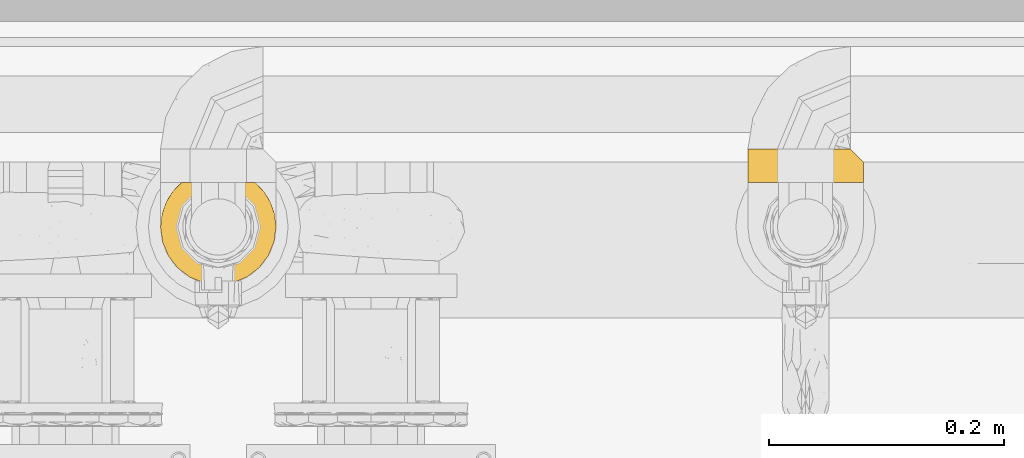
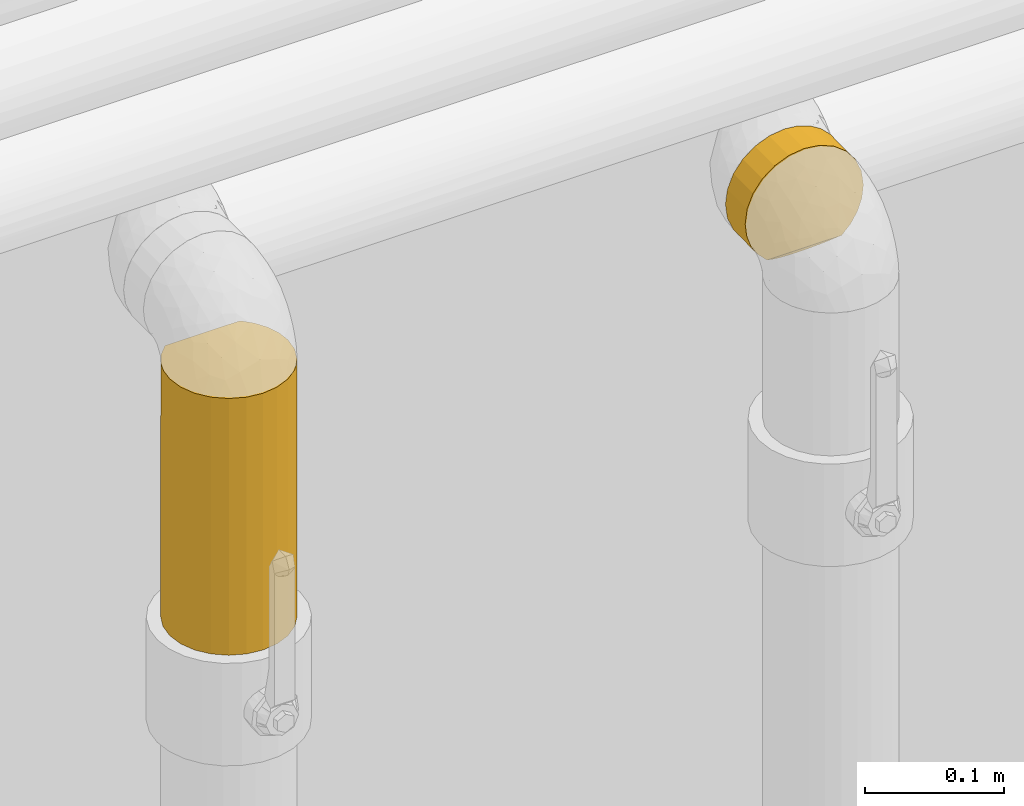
# One storey, part 21 of 94: 2 coverings.
"""IFC2X3 building model written with IfcOpenShell, lengths in millimetres."""

import ifcopenshell
import ifcopenshell.guid

model = None  # the IFC model being written
_history = None  # IfcOwnerHistory: only IFC2X3 demands one
_inside = {}  # id of a spatial element -> (the spatial element, [elements in it])
_under = {}  # id of a project, library or spatial element -> (it, [spatial elements below it])
_declared = {}  # id of a project -> (the project, [libraries it declares])
_typed = {}  # id of a type object -> (the type object, [elements of that type])
_made_of = {}  # id of a material, layer set ... -> (it, [elements and type objects made of it])


def new_model(schema):
    """Start an empty IFC model of exactly this schema.

    Asked for "IFC4X3", IfcOpenShell would pick the latest addendum, in which some entities
    have other attributes; the version numbers below select the first issue.
    IFC2X3 requires an IfcOwnerHistory on every rooted entity: one is made here for all.
    """
    global model, _history
    if schema == "IFC4X3":
        model = ifcopenshell.file(schema_version=(4, 3, 0, 0))
    else:
        model = ifcopenshell.file(schema=schema)
    _inside.clear()
    _under.clear()
    _declared.clear()
    _typed.clear()
    _made_of.clear()
    _history = None
    if model.schema == "IFC2X3":
        org = make("IfcOrganization", Name="unknown")
        user = make(
            "IfcPersonAndOrganization",
            ThePerson=make("IfcPerson", FamilyName="unknown"),
            TheOrganization=org,
        )
        app = make(
            "IfcApplication",
            ApplicationDeveloper=org,
            Version="unknown",
            ApplicationFullName="unknown",
            ApplicationIdentifier="unknown",
        )
        _history = make(
            "IfcOwnerHistory",
            OwningUser=user,
            OwningApplication=app,
            ChangeAction="ADDED",
            CreationDate=0,
        )
    return model


def make(cls, **values):
    """One entity of the class cls with the attributes given. An attribute that is None is left unset."""
    return model.create_entity(
        cls, **{name: value for name, value in values.items() if value is not None}
    )


def entity(cls, *values):
    """Any entity or typed value of the class cls, its attributes in the order of the schema. None: left unset."""
    e = model.create_entity(cls)
    for i, value in enumerate(values):
        if value is not None:
            e[i] = value
    return e


def rooted(cls, **values):
    """An entity with a GlobalId (a new one), such as an element, a storey or a relation."""
    return make(cls, GlobalId=ifcopenshell.guid.new(), OwnerHistory=_history, **values)


def si_unit(unit_type, name, prefix=None):
    """IfcSIUnit, for example si_unit("LENGTHUNIT", "METRE", prefix="MILLI")."""
    return make("IfcSIUnit", UnitType=unit_type, Prefix=prefix, Name=name)


def converted_unit(unit_type, name, factor, base, dimensions=None, offset=None):
    """IfcConversionBasedUnit, such as the inch: factor (a typed value) times the base unit."""
    return make(
        "IfcConversionBasedUnit"
        if offset is None
        else "IfcConversionBasedUnitWithOffset",
        ConversionOffset=offset,
        Dimensions=None
        if dimensions is None
        else entity("IfcDimensionalExponents", *dimensions),
        UnitType=unit_type,
        Name=name,
        ConversionFactor=make(
            "IfcMeasureWithUnit", ValueComponent=factor, UnitComponent=base
        ),
    )


def derived_unit(unit_type, elements):
    """IfcDerivedUnit: a product of units, each with its exponent."""
    return make(
        "IfcDerivedUnit",
        Elements=[
            make("IfcDerivedUnitElement", Unit=unit, Exponent=power)
            for unit, power in elements
        ],
        UnitType=unit_type,
    )


def assignment(units):
    """IfcUnitAssignment: the units of a project."""
    return None if units is None else make("IfcUnitAssignment", Units=units)


def point(xyz):
    """IfcCartesianPoint."""
    return None if xyz is None else make("IfcCartesianPoint", Coordinates=xyz)


def direction(xyz):
    """IfcDirection."""
    return None if xyz is None else make("IfcDirection", DirectionRatios=xyz)


def frame(location, z_axis=None, x_axis=None):
    """IfcAxis2Placement3D, a coordinate frame: its origin and axes. An axis left out is left unset."""
    return make(
        "IfcAxis2Placement3D",
        Location=point(location),
        Axis=direction(z_axis),
        RefDirection=direction(x_axis),
    )


def origin():
    """The frame at (0, 0, 0) with its axes left unset."""
    return frame((0.0, 0.0, 0.0))


def place(relative_to, where):
    """IfcLocalPlacement: puts the frame where relative to a parent placement (None: the world)."""
    return make(
        "IfcLocalPlacement", PlacementRelTo=relative_to, RelativePlacement=where
    )


def context(
    kind, dimensions, precision=None, world=None, true_north=None, identifier=None
):
    """IfcGeometricRepresentationContext, for example the 3D "Model" context."""
    return make(
        "IfcGeometricRepresentationContext",
        ContextIdentifier=identifier,
        ContextType=kind,
        CoordinateSpaceDimension=dimensions,
        Precision=precision,
        WorldCoordinateSystem=world,
        TrueNorth=true_north,
    )


def subcontext(parent, identifier, kind, view, scale=None):
    """IfcGeometricRepresentationSubContext, for example "Body" below "Model"."""
    return make(
        "IfcGeometricRepresentationSubContext",
        ContextIdentifier=identifier,
        ContextType=kind,
        ParentContext=parent,
        TargetScale=scale,
        TargetView=view,
    )


def project(units=None, contexts=None):
    """IfcProject with its units and contexts."""
    return rooted(
        "IfcProject",
        Name="project",
        RepresentationContexts=contexts,
        UnitsInContext=assignment(units),
    )


def spatial(cls, under=None, at=None, **own):
    """A site, building, storey or space (cls), placed at a placement, below another one or the project."""
    s = rooted(cls, ObjectPlacement=at, **own)
    if under is not None:
        _under.setdefault(under.id(), (under, []))[1].append(s)
    return s


def faces_of(points, faces, orient=None, outer=None):
    """IfcFace entities. A face is a list of loops; a loop is a list of indices into points, from 0.

    orient and outer hold one flag for each loop. By default every Orientation is true, the
    first loop of a face is its IfcFaceOuterBound and the others are IfcFaceBound.
    """
    made = []
    for i, loops in enumerate(faces):
        bounds = []
        for j, loop in enumerate(loops):
            is_outer = j == 0 if outer is None else outer[i][j]
            bounds.append(
                make(
                    "IfcFaceOuterBound" if is_outer else "IfcFaceBound",
                    Bound=make("IfcPolyLoop", Polygon=[points[k] for k in loop]),
                    Orientation=True if orient is None else orient[i][j],
                )
            )
        made.append(make("IfcFace", Bounds=bounds))
    return made


def faceted_brep(points, faces, orient=None, outer=None, voids=None):
    """IfcFacetedBrep: a solid bounded by flat faces; with voids (closed shells), ...WithVoids."""
    shared = [point(p) for p in points]
    hull = make("IfcClosedShell", CfsFaces=faces_of(shared, faces, orient, outer))
    if voids is None:
        return make("IfcFacetedBrep", Outer=hull)
    return make(
        "IfcFacetedBrepWithVoids",
        Outer=hull,
        Voids=[
            make(cls, CfsFaces=faces_of(shared, fs, o, b)) for cls, fs, o, b in voids
        ],
    )


def shape(context_of_items, identifier, shape_type, items):
    """IfcShapeRepresentation: the items that make up one representation, for example the "Body"."""
    return make(
        "IfcShapeRepresentation",
        ContextOfItems=context_of_items,
        RepresentationIdentifier=identifier,
        RepresentationType=shape_type,
        Items=items,
    )


def material(Name=None, Category=None):
    """IfcMaterial."""
    return make("IfcMaterial", Name=Name, Category=Category)


def made_of(thing, what):
    """Note that an element or type object is made of a material, layer set ...; save() writes the relation."""
    if what is not None:
        _made_of.setdefault(what.id(), (what, []))[1].append(thing)
    return thing


def element(
    cls,
    number,
    at=None,
    inside=None,
    cuts=None,
    type_object=None,
    material=None,
    context=None,
    identifier="Body",
    shape_type=None,
    held_by="IfcProductDefinitionShape",
    body=None,
    shapes=None,
    **own,
):
    """One element of the class cls, such as IfcWall. Its Tag is "e" and its number.

    at: its placement. inside: the storey or other place that contains it. cuts: it is an
    opening in that element (IfcRelVoidsElement). A single representation is given by context,
    identifier, shape_type and body (its items); several are given by shapes. held_by: the class
    of the entity that holds the representations. save() writes the other relations.
    """
    e = rooted(cls, Tag="e%d" % number, ObjectPlacement=at, **own)
    if body is not None:
        shapes = [shape(context, identifier, shape_type, body)]
    if shapes is not None:
        e.Representation = make(held_by, Representations=shapes)
    if inside is not None:
        _inside.setdefault(inside.id(), (inside, []))[1].append(e)
    if cuts is not None:
        rooted(
            "IfcRelVoidsElement", RelatingBuildingElement=cuts, RelatedOpeningElement=e
        )
    if type_object is not None:
        _typed.setdefault(type_object.id(), (type_object, []))[1].append(e)
    return made_of(e, material)


def aggregate(whole, parts):
    """IfcRelAggregates: a whole, such as a stair, and the parts it consists of."""
    return rooted("IfcRelAggregates", RelatingObject=whole, RelatedObjects=parts)


def save(model, path):
    """Write the relations noted so far, then the file.

    IfcRelAggregates (storeys below a building ...), IfcRelContainedInSpatialStructure (elements
    in a storey), IfcRelDefinesByType, IfcRelAssociatesMaterial and IfcRelDeclares: one each for
    every whole, place, type object, material and project.
    """
    for whole, parts in _under.values():
        aggregate(whole, parts)
    for where, things in _inside.values():
        rooted(
            "IfcRelContainedInSpatialStructure",
            RelatedElements=things,
            RelatingStructure=where,
        )
    for kind, things in _typed.values():
        rooted("IfcRelDefinesByType", RelatedObjects=things, RelatingType=kind)
    for what, things in _made_of.values():
        rooted("IfcRelAssociatesMaterial", RelatedObjects=things, RelatingMaterial=what)
    for by, libraries in _declared.values():
        rooted("IfcRelDeclares", RelatingContext=by, RelatedDefinitions=libraries)
    model.write(path)


model = new_model("IFC2X3")

# Units and contexts
model_context = context("Model", 3, precision=0.01, world=origin(), true_north=direction((6.123031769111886e-17, 1.0)))
body_context = subcontext(model_context, "Body", "Model", "MODEL_VIEW")
ifc_project = project(units=[si_unit("LENGTHUNIT", "METRE", prefix="MILLI"), si_unit("AREAUNIT", "SQUARE_METRE"), si_unit("VOLUMEUNIT", "CUBIC_METRE"), converted_unit("PLANEANGLEUNIT", "DEGREE", entity("IfcRatioMeasure", 0.017453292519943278), si_unit("PLANEANGLEUNIT", "RADIAN"), dimensions=[0, 0, 0, 0, 0, 0, 0]), si_unit("MASSUNIT", "GRAM", prefix="KILO"), derived_unit("MASSDENSITYUNIT", [(si_unit("MASSUNIT", "GRAM", prefix="KILO"), 1), (si_unit("LENGTHUNIT", "METRE"), -3)]), derived_unit("IONCONCENTRATIONUNIT", [(si_unit("MASSUNIT", "GRAM", prefix="KILO"), 1), (si_unit("LENGTHUNIT", "METRE"), -3)]), derived_unit("MOMENTOFINERTIAUNIT", [(si_unit("LENGTHUNIT", "METRE"), 4)]), si_unit("TIMEUNIT", "SECOND"), si_unit("FREQUENCYUNIT", "HERTZ"), si_unit("THERMODYNAMICTEMPERATUREUNIT", "DEGREE_CELSIUS"), derived_unit("THERMALTRANSMITTANCEUNIT", [(si_unit("MASSUNIT", "GRAM", prefix="KILO"), 1), (si_unit("THERMODYNAMICTEMPERATUREUNIT", "KELVIN"), -1), (si_unit("TIMEUNIT", "SECOND"), -3)]), derived_unit("THERMALCONDUCTANCEUNIT", [(si_unit("MASSUNIT", "GRAM", prefix="KILO"), 1), (si_unit("THERMODYNAMICTEMPERATUREUNIT", "KELVIN"), -1), (si_unit("TIMEUNIT", "SECOND"), -3), (si_unit("LENGTHUNIT", "METRE"), 1)]), derived_unit("VOLUMETRICFLOWRATEUNIT", [(si_unit("LENGTHUNIT", "METRE"), 3), (si_unit("TIMEUNIT", "SECOND"), -1)]), derived_unit("MASSFLOWRATEUNIT", [(si_unit("MASSUNIT", "GRAM", prefix="KILO"), 1), (si_unit("TIMEUNIT", "SECOND"), -1)]), derived_unit("ROTATIONALFREQUENCYUNIT", [(si_unit("TIMEUNIT", "SECOND"), -1)]), si_unit("ELECTRICCURRENTUNIT", "AMPERE"), si_unit("ELECTRICVOLTAGEUNIT", "VOLT"), si_unit("POWERUNIT", "WATT"), si_unit("FORCEUNIT", "NEWTON", prefix="KILO"), si_unit("ILLUMINANCEUNIT", "LUX"), si_unit("LUMINOUSFLUXUNIT", "LUMEN"), si_unit("LUMINOUSINTENSITYUNIT", "CANDELA"), derived_unit("USERDEFINED", [(si_unit("MASSUNIT", "GRAM", prefix="KILO"), -1), (si_unit("LENGTHUNIT", "METRE"), -2), (si_unit("TIMEUNIT", "SECOND"), 3), (si_unit("LUMINOUSFLUXUNIT", "LUMEN"), 1)]), derived_unit("USERDEFINED", [(si_unit("MASSUNIT", "GRAM", prefix="KILO"), 1), (si_unit("TIMEUNIT", "SECOND"), -3), (si_unit("LENGTHUNIT", "METRE"), 3), (si_unit("ELECTRICCURRENTUNIT", "AMPERE"), -2)]), derived_unit("SOUNDPOWERUNIT", [(si_unit("MASSUNIT", "GRAM", prefix="KILO"), 1), (si_unit("TIMEUNIT", "SECOND"), -3), (si_unit("LENGTHUNIT", "METRE"), 2)]), derived_unit("SOUNDPRESSUREUNIT", [(si_unit("MASSUNIT", "GRAM", prefix="KILO"), 1), (si_unit("LENGTHUNIT", "METRE"), -1), (si_unit("TIMEUNIT", "SECOND"), -2)]), derived_unit("LINEARVELOCITYUNIT", [(si_unit("LENGTHUNIT", "METRE"), 1), (si_unit("TIMEUNIT", "SECOND"), -1)]), si_unit("PRESSUREUNIT", "PASCAL"), derived_unit("USERDEFINED", [(si_unit("MASSUNIT", "GRAM", prefix="KILO"), 1), (si_unit("LENGTHUNIT", "METRE"), -2), (si_unit("TIMEUNIT", "SECOND"), -2)]), derived_unit("LINEARFORCEUNIT", [(si_unit("MASSUNIT", "GRAM", prefix="KILO"), 1), (si_unit("TIMEUNIT", "SECOND"), -2)]), derived_unit("PLANARFORCEUNIT", [(si_unit("MASSUNIT", "GRAM", prefix="KILO"), 1), (si_unit("LENGTHUNIT", "METRE"), -1), (si_unit("TIMEUNIT", "SECOND"), -2)]), derived_unit("SPECIFICHEATCAPACITYUNIT", [(si_unit("THERMODYNAMICTEMPERATUREUNIT", "KELVIN"), -1), (si_unit("LENGTHUNIT", "METRE"), 2), (si_unit("TIMEUNIT", "SECOND"), -2)]), derived_unit("HEATINGVALUEUNIT", [(si_unit("LENGTHUNIT", "METRE"), 2), (si_unit("TIMEUNIT", "SECOND"), -2)]), derived_unit("VAPORPERMEABILITYUNIT", [(si_unit("LENGTHUNIT", "METRE"), -1), (si_unit("TIMEUNIT", "SECOND"), 1)]), derived_unit("DYNAMICVISCOSITYUNIT", [(si_unit("MASSUNIT", "GRAM", prefix="KILO"), 1), (si_unit("TIMEUNIT", "SECOND"), -1), (si_unit("LENGTHUNIT", "METRE"), -1)]), derived_unit("THERMALEXPANSIONCOEFFICIENTUNIT", [(si_unit("THERMODYNAMICTEMPERATUREUNIT", "KELVIN"), -1)]), derived_unit("MODULUSOFELASTICITYUNIT", [(si_unit("MASSUNIT", "GRAM", prefix="KILO"), 1), (si_unit("LENGTHUNIT", "METRE"), -1), (si_unit("TIMEUNIT", "SECOND"), -2)]), derived_unit("ISOTHERMALMOISTURECAPACITYUNIT", [(si_unit("LENGTHUNIT", "METRE"), 3), (si_unit("MASSUNIT", "GRAM", prefix="KILO"), -1)]), derived_unit("MOISTUREDIFFUSIVITYUNIT", [(si_unit("TIMEUNIT", "SECOND"), -1), (si_unit("LENGTHUNIT", "METRE"), 2)])], contexts=[model_context])

# Site, building, storey
site_placement = place(None, origin())
site = spatial("IfcSite", under=ifc_project, at=site_placement, Name="Default", CompositionType="ELEMENT")
building_placement = place(site_placement, origin())
building = spatial("IfcBuilding", under=site, at=building_placement, CompositionType="ELEMENT")
storey_placement = place(building_placement, origin())
storey = spatial("IfcBuildingStorey", under=building, at=storey_placement, Name="Niveau 0", CompositionType="ELEMENT", Elevation=0.0)

# Coverings
ifc_material = material(Name="Isolation - Laine minérale")
covering_1_placement = place(storey_placement, frame((-8622.871137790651, 9871.745273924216, 2513.595272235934)))
element("IfcCovering", 1, at=covering_1_placement, inside=storey, material=ifc_material, Name="Isolation des canalisations:Laine minérale", ObjectType="Isolation des canalisations:Laine minérale", PredefinedType="INSULATION", context=body_context, shape_type="Brep", body=[
    faceted_brep([(93.2731003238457, 26.160272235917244, -1.5952722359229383), (98.18120808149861, 38.00949255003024, -1.5952722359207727), (99.85527223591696, 50.72527223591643, -1.595272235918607), (98.65694811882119, 61.51004608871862, -1.5952722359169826), (95.12737949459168, 71.75405657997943, -1.5952722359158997), (89.43799982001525, 80.975588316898, -1.5952722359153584), (81.86619226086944, 88.72527223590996, -1.5952722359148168), (19.584352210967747, 88.72527223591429, -1.5952722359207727), (12.012544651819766, 80.97558831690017, -1.595272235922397), (6.323164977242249, 71.75405657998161, -1.5952722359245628), (2.793596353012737, 61.51004608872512, -1.595272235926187), (1.5952722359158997, 50.72527223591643, -1.5952722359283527), (3.26933639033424, 38.00949255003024, -1.5952722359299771), (8.17744414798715, 26.160272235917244, -1.5952722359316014), (15.985116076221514, 15.98511607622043, -1.5952722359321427), (26.160272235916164, 8.17744414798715, -1.5952722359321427), (38.00949255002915, 3.26933639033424, -1.5952722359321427), (50.72527223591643, 1.5952722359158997, -1.5952722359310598), (63.4410519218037, 3.26933639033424, -1.5952722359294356), (75.29027223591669, 8.17744414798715, -1.5952722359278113), (85.46542839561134, 15.98511607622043, -1.5952722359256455), (98.18120808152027, 63.44105192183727, -227.1300511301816), (99.85527223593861, 50.725272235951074, -227.13005113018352), (98.18120808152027, 38.009492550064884, -227.1300511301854), (93.27310032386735, 26.160272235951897, -227.13005113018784), (85.465428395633, 15.985116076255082, -227.13005113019), (75.29027223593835, 8.1774441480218, -227.13005113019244), (63.441051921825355, 3.269336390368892, -227.13005113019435), (50.725272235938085, 1.5952722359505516, -227.13005113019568), (38.00949255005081, 3.269336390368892, -227.1300511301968), (26.16027223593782, 8.1774441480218, -227.13005113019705), (15.985116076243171, 15.985116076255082, -227.1300511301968), (8.177444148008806, 26.160272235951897, -227.13005113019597), (3.2693363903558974, 38.009492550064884, -227.1300511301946), (1.595272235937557, 50.725272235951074, -227.13005113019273), (3.2693363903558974, 63.44105192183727, -227.13005113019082), (8.177444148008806, 75.29027223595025, -227.13005113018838), (15.985116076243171, 85.46542839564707, -227.13005113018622), (26.16027223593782, 93.27310032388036, -227.13005113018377), (38.00949255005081, 98.18120808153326, -227.1300511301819), (50.725272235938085, 99.8552722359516, -227.13005113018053), (63.441051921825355, 98.18120808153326, -227.13005113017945), (75.29027223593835, 93.27310032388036, -227.13005113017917), (85.465428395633, 85.46542839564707, -227.13005113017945), (93.27310032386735, 75.29027223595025, -227.13005113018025), (67.26033951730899, 96.98917230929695, -9.859172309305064), (59.11608534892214, 99.1334446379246, -12.003444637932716), (50.72527223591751, 99.85527223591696, -12.725272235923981), (74.9187207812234, 93.4854633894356, -6.355463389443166), (42.33445912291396, 99.13344463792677, -12.003444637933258), (34.19020495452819, 96.98917230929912, -9.859172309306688), (26.531823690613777, 93.48546338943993, -6.355463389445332)], [[[0, 1, 2, 3, 4, 5, 6, 7, 8, 9, 10, 11, 12, 13, 14, 15, 16, 17, 18, 19, 20]], [[21, 22, 23, 24, 25, 26, 27, 28, 29, 30, 31, 32, 33, 34, 35, 36, 37, 38, 39, 40, 41, 42, 43, 44]], [[22, 21, 3]], [[21, 44, 4]], [[5, 44, 43]], [[3, 2, 22]], [[4, 3, 21]], [[44, 5, 4]], [[43, 6, 5]], [[45, 42, 41]], [[41, 40, 46]], [[47, 46, 40]], [[48, 6, 42]], [[46, 45, 41]], [[48, 42, 45]], [[42, 6, 43]], [[49, 47, 40]], [[49, 40, 39]], [[50, 39, 38]], [[50, 49, 39]], [[7, 51, 38]], [[50, 38, 51]], [[38, 37, 7]], [[8, 37, 36]], [[9, 36, 35]], [[10, 35, 34]], [[8, 36, 9]], [[9, 35, 10]], [[34, 11, 10]], [[37, 8, 7]], [[12, 11, 34, 33]], [[13, 12, 33, 32]], [[32, 31, 14, 13]], [[16, 15, 30, 29]], [[17, 16, 29, 28]], [[31, 30, 15, 14]], [[18, 17, 28, 27]], [[19, 18, 27, 26]], [[26, 25, 20, 19]], [[1, 0, 24, 23]], [[2, 1, 23, 22]], [[25, 24, 0, 20]], [[45, 46, 47, 49, 50, 51, 7, 6, 48]]]),
])
covering_2_placement = place(storey_placement, frame((-8122.871137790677, 9958.875273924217, 2500.7252722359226)))
element("IfcCovering", 2, at=covering_2_placement, inside=storey, material=ifc_material, Name="Isolation des canalisations:Laine minérale", ObjectType="Isolation des canalisations:Laine minérale", PredefinedType="INSULATION", context=body_context, shape_type="Brep", body=[
    faceted_brep([(12.012544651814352, 1.5952722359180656, -80.97558831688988), (19.58435221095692, 1.5952722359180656, -88.72527223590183), (81.86619226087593, 1.5952722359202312, -88.72527223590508), (89.43799982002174, 1.5952722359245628, -80.97558831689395), (95.12737949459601, 1.5952722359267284, -71.75405657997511), (98.65694811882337, 1.5952722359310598, -61.510046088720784), (99.85527223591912, 1.5952722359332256, -50.72527223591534), (98.18120808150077, 1.595272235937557, -38.00949255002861), (93.27310032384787, 1.595272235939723, -26.16027223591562), (85.4654283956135, 1.5952722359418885, -15.98511607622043), (75.29027223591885, 1.5952722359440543, -8.177444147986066), (63.441051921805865, 1.5952722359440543, -3.2693363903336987), (50.72527223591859, 1.5952722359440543, -1.5952722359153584), (38.00949255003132, 1.5952722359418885, -3.2693363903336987), (26.160272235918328, 1.595272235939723, -8.177444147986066), (15.98511607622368, 1.595272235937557, -15.98511607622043), (8.177444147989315, 1.5952722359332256, -26.16027223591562), (3.269336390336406, 1.5952722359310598, -38.00949255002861), (1.5952722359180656, 1.5952722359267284, -50.72527223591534), (2.7935963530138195, 1.5952722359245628, -61.51004608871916), (6.323164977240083, 1.5952722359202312, -71.75405657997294), (61.51004608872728, 29.97035065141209, -98.65694811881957), (50.72527223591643, 29.970350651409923, -99.85527223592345), (38.00949255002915, 29.970350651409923, -98.18120808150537), (26.160272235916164, 29.970350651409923, -93.27310032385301), (15.985116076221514, 29.97035065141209, -85.46542839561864), (8.17744414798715, 29.970350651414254, -75.29027223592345), (3.26933639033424, 29.97035065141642, -63.4410519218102), (1.5952722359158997, 29.970350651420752, -50.72527223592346), (3.26933639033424, 29.970350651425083, -38.00949255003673), (8.17744414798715, 29.97035065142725, -26.160272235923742), (15.985116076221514, 29.97035065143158, -15.985116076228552), (26.160272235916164, 29.970350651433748, -8.177444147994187), (38.00949255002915, 29.97035065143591, -3.26933639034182), (50.72527223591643, 29.97035065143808, -1.5952722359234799), (61.510046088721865, 29.97035065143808, -2.7935963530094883), (71.7540565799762, 29.97035065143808, -6.3231649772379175), (80.97558831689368, 29.97035065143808, -12.012544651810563), (88.72527223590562, 29.97035065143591, -19.584352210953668), (88.7252722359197, 29.970350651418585, -81.86619226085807), (80.97558831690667, 29.970350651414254, -89.4379998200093), (71.75405657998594, 29.97035065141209, -95.12737949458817), (34.19020495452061, 9.859172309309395, -96.98917230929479), (42.33445912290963, 12.003444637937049, -99.13344463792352), (50.72527223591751, 12.725272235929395, -99.85527223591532), (26.531823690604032, 6.355463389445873, -93.48546338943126), (59.11608534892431, 12.003444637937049, -99.13344463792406), (67.26033951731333, 9.859172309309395, -96.98917230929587), (74.91872078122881, 6.3554633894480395, -93.4854633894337), (93.48546338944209, 25.21015949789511, -74.9187207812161), (96.98917230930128, 21.70645057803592, -67.26033951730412), (99.13344463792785, 19.562178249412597, -59.11608534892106), (99.85527223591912, 18.840350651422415, -50.725272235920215), (99.13344463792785, 19.562178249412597, -42.334459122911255), (96.98917230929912, 21.706450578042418, -34.19020495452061), (93.4854633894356, 25.210159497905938, -26.53182369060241)], [[[0, 1, 2, 3, 4, 5, 6, 7, 8, 9, 10, 11, 12, 13, 14, 15, 16, 17, 18, 19, 20]], [[21, 22, 23, 24, 25, 26, 27, 28, 29, 30, 31, 32, 33, 34, 35, 36, 37, 38, 39, 40, 41]], [[19, 28, 27]], [[27, 26, 20]], [[25, 0, 26]], [[18, 28, 19]], [[20, 19, 27]], [[0, 20, 26]], [[25, 1, 0]], [[42, 24, 23]], [[23, 22, 43]], [[44, 43, 22]], [[1, 25, 45]], [[43, 42, 23]], [[45, 24, 42]], [[45, 25, 24]], [[46, 22, 21]], [[21, 41, 47]], [[40, 48, 41]], [[46, 44, 22]], [[48, 47, 41]], [[2, 48, 40]], [[46, 21, 47]], [[40, 39, 2]], [[39, 49, 3]], [[50, 51, 5]], [[49, 50, 4]], [[3, 49, 4]], [[51, 6, 5]], [[5, 4, 50]], [[6, 51, 52]], [[39, 3, 2]], [[53, 54, 7]], [[8, 55, 9]], [[54, 55, 8]], [[52, 53, 6]], [[6, 53, 7]], [[54, 8, 7]], [[55, 38, 9]], [[10, 37, 36]], [[36, 35, 11]], [[34, 12, 35]], [[9, 37, 10]], [[11, 10, 36]], [[12, 11, 35]], [[37, 9, 38]], [[12, 34, 33, 13]], [[13, 33, 32, 14]], [[14, 32, 31, 15]], [[16, 30, 29, 17]], [[17, 29, 28, 18]], [[15, 31, 30, 16]], [[45, 42, 43, 44, 46, 47, 48, 2, 1]], [[38, 55, 54, 53, 52, 51, 50, 49, 39]]]),
])

save(model, "model.ifc")
